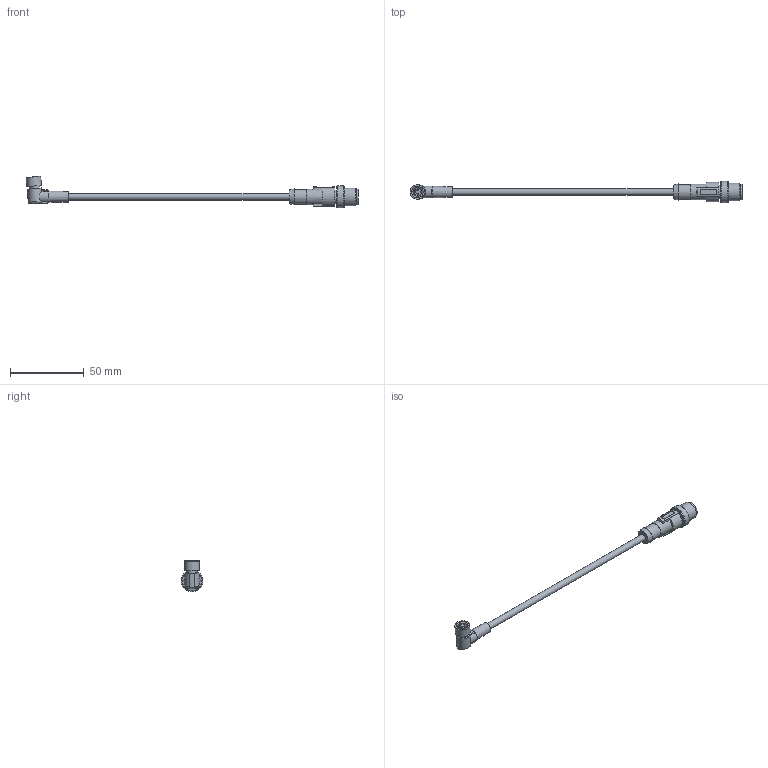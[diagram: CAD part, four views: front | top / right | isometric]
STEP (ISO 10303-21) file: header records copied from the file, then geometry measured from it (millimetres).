
FILE_DESCRIPTION( ( 'Unknown' ), '1' );
FILE_NAME( 'X:/SolidEdge/Models/Dokumentationen/_Standardteile/Verbindungskabel/Vereinfachte Modelle/Neutralformate/ESW 31A_KSG34AH.stp', 'Unknown', ( 'Unknown' ), ( 'Unknown' ), 'PSStep 15.0.49', 'Unknown', ' ' );
FILE_SCHEMA( ( 'AUTOMOTIVE_DESIGN { 1 0 10303 214 1 1 1 1 }' ) );
Length unit declared in the file: millimetre
Products named in the file (1): 1697085
Bounding box: 225.66 x 14.8 x 21.4 mm (x, y, z)
Volume: 8953.6 mm3; surface area: 5989.6 mm2
Topology: 1 solids, 1 shells, 174 faces, 422 edges, 284 vertices
Faces by surface type: plane 81, cylinder 58, extrusion 25, cone 10
Full cylindrical faces by diameter (mm): 1 x4, 1.2 x4, 4.4 x1, 6.35 x1, 6.9 x1, 8 x1, 9.3 x1, 10 x2, 10.4 x1, 10.6 x1, 12 x1, 14 x2, 14.8 x1
Entity records: 9033 total; most frequent: CARTESIAN_POINT 3738, ORIENTED_EDGE 780, DIRECTION 735, EDGE_CURVE 390, VERTEX_POINT 279, AXIS2_PLACEMENT_3D 269, EDGE_LOOP 235, VECTOR 197
